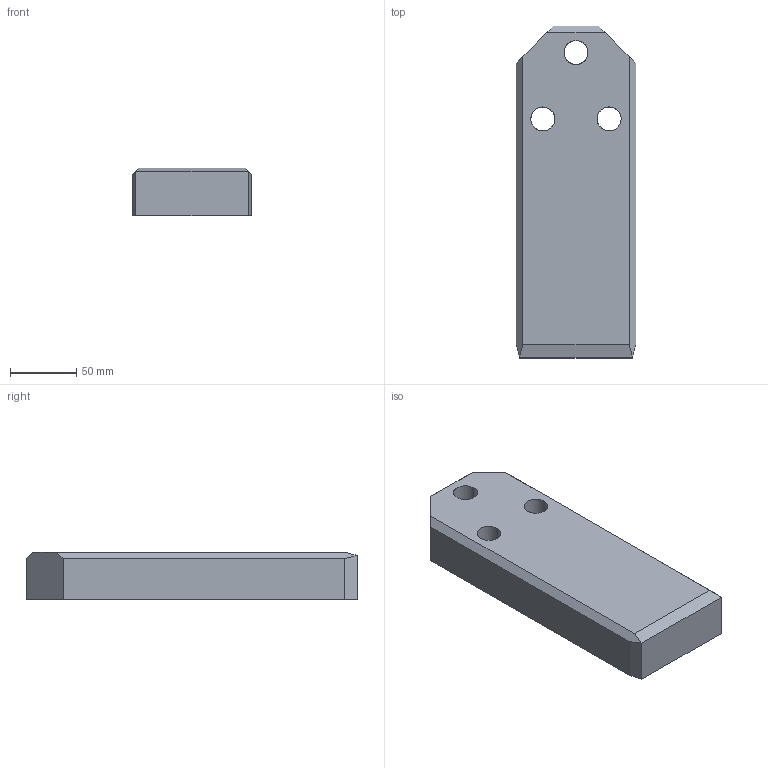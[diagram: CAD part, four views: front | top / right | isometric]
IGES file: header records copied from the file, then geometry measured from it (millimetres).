
Start section: START RECORD GO HERE.
Global section: file name: A927-90X250X36.igs; native system: DASSAULT SYSTEMES CATIA V5 R20 - www.3ds.com; preprocessor: CATIA Version 5 Release 20 ; author: Utente; organization: NB04-ASUS; date: 20200408.202451; units: millimetre
Bounding box: 90 x 250 x 36 mm (x, y, z)
Surface area: 70756.5 mm2 (no closed solid volume)
Topology: 0 solids, 0 shells, 35 faces, 168 edges, 168 vertices
Faces by surface type: revolution 18, extrusion 17
